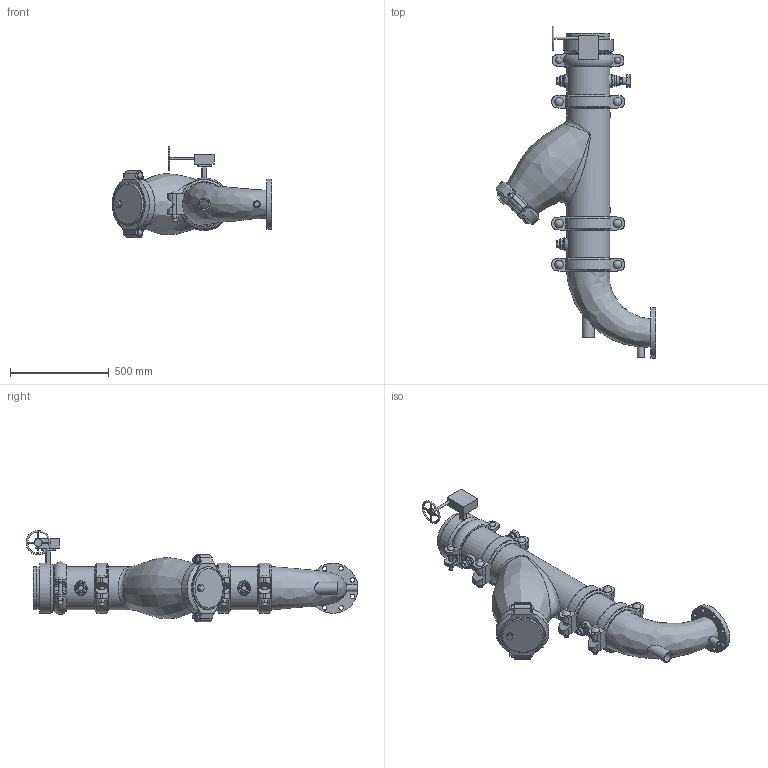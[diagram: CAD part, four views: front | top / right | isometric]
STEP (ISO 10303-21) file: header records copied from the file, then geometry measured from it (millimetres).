
FILE_DESCRIPTION(/* description */ ('VIC SVI PUMP DROP HORZ S/382 (OGSxFLG) (S/924-1.25)','CAx-IF Rec.Pracs.---Representation and Presentation of Product Manufacturing Information (PMI)---4.0---2014-10-13'),/* implementation_level */ '2;1');
FILE_NAME(/* name */ 'C:\Users\Vjadhav\AppData\Roaming\Autodesk\ApplicationPlugins\Victaulic.Temp\A115\Series 382 (OGSxFLG)_924 (1.25)_08.0x05.0 (200x125).stp',/* time_stamp */ '2022-03-17T12:20:03+06:00',/* author */ ('kkamble'),/* organization */ ('Victaulic'),/* preprocessor_version */ 'ST-DEVELOPER v17.2',/* originating_system */ 'Autodesk Inventor 2019',/* authorisation */ '');
FILE_SCHEMA (('AP242_MANAGED_MODEL_BASED_3D_ENGINEERING_MIM_LF { 1 0 10303 442 1 1 4 }'));
Length unit declared in the file: inch
Products named in the file (13): 382_924 (1.25)-08.0x05.0; PIPE-08.0; 107N-08.0; 732-08.0; 732-08.0_1; 07-08.0; 732-08.0_2; PIPE-08.1; 924-04.0x01.25; 761-08.0; 177N-08.0; 923-10.0x0.75; R100F-08.0x05.0
Assembly tree (15 placements, depth 3):
  382_924 (1.25)-08.0x05.0
    PIPE-08.0
    107N-08.0
    732-08.0
      732-08.0_1
      07-08.0
      732-08.0_2
    177N-08.0  x3
    PIPE-08.1
    924-04.0x01.25
    761-08.0
    923-10.0x0.75  x2
    R100F-08.0x05.0
Bounding box: 809.75 x 1684.14 x 463.13 mm (x, y, z)
Volume: 21597717.1 mm3; surface area: 4159566.5 mm2
Topology: 14 solids, 18 shells, 860 faces, 2245 edges, 1493 vertices
Faces by surface type: plane 487, cylinder 275, torus 31, bspline 30, cone 27, sphere 10
Full cylindrical faces by diameter (mm): 8.636 x4, 12.446 x1, 12.7 x1, 19.05 x8, 21.336 x3, 22.225 x6, 22.352 x8, 22.86 x1, 26.67 x4, 32.537 x4, 34.29 x1, 38.1 x1, 38.608 x1, 39.125 x1, 42.164 x1, 42.85 x6, 45.974 x6, 48.26 x1, 48.514 x1, 55.118 x1, 55.626 x3, 60.96 x1, 76.2 x2, 128.194 x1, 190.5 x1, 202.463 x1, 202.717 x4, 202.819 x1, 206.375 x5, 214.401 x11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
Entity records: 25747 total; most frequent: CARTESIAN_POINT 8967, DIRECTION 3389, ORIENTED_EDGE 3194, EDGE_CURVE 1597, AXIS2_PLACEMENT_3D 1293, VERTEX_POINT 1070, LINE 803, VECTOR 803
